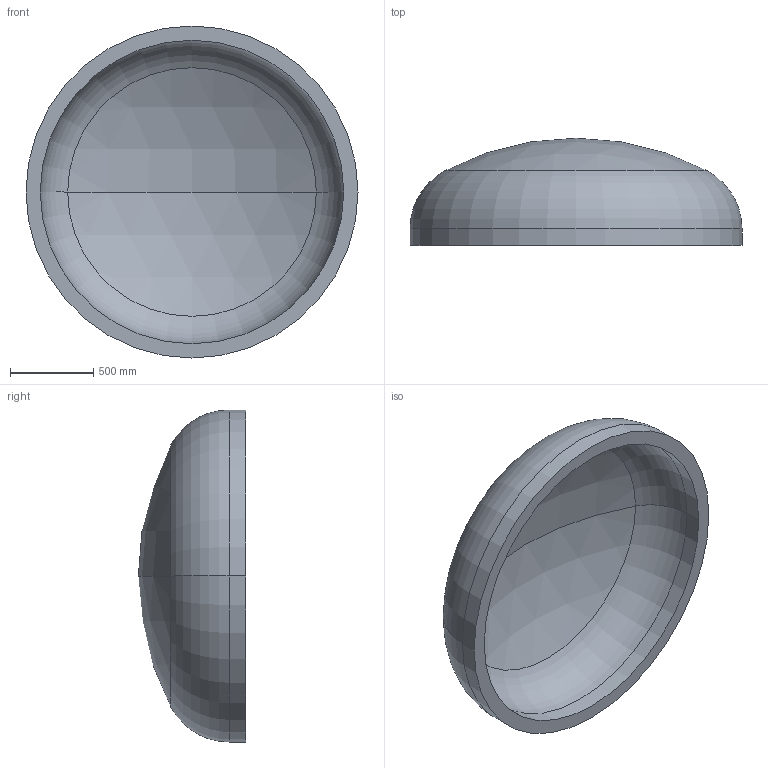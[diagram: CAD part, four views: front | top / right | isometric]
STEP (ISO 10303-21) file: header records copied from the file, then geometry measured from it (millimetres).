
FILE_DESCRIPTION (( 'STEP AP203' ), '1' );
FILE_NAME ('DIN 28013 Korbbogenform_-_Boden DIN 28013 - 2000 x 100 - I - s=86.step', '2016-07-01T14:06:01', ( '' ), ( '' ), 'SwSTEP 2.0', 'SolidWorks 2013', '' );
FILE_SCHEMA (( 'CONFIG_CONTROL_DESIGN' ));
Length unit declared in the file: millimetre
Products named in the file (1): DIN 28013 Korbbogenform_-_Boden DIN 28013 - 2000 x 100 - I - s=86
Bounding box: 2000 x 646.14 x 2000 mm (x, y, z)
Volume: 406141983.4 mm3; surface area: 9977768.6 mm2
Topology: 1 solids, 1 shells, 13 faces, 24 edges, 14 vertices
Faces by surface type: torus 4, cylinder 4, sphere 4, plane 1
Entity records: 407 total; most frequent: DIRECTION 72, CARTESIAN_POINT 52, ORIENTED_EDGE 48, AXIS2_PLACEMENT_3D 34, EDGE_CURVE 24, CIRCLE 20, EDGE_LOOP 14, VERTEX_POINT 14
